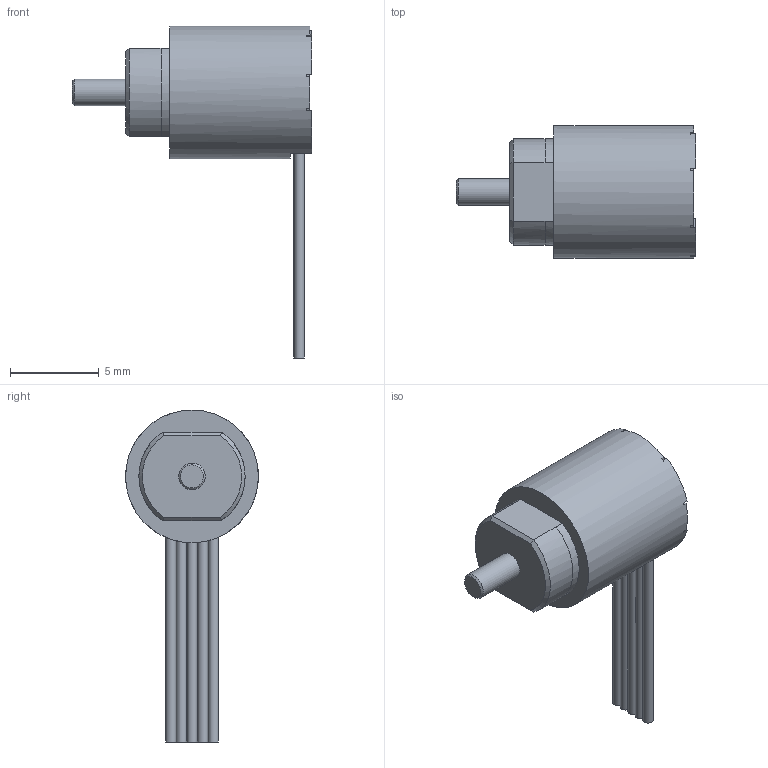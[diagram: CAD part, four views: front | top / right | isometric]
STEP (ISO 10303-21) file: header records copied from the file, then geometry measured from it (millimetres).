
FILE_DESCRIPTION(('STEP AP242'),'1');
FILE_NAME('L0G02 MES-6P.stp','2025-06-20T01:16:08',(' '),(' '),'Spatial InterOp 3D',' ',' ');
FILE_SCHEMA(('AP242_MANAGED_MODEL_BASED_3D_ENGINEERING_MIM_LF {1 0 10303 442 1 1 4}'));
Length unit declared in the file: millimetre
Products named in the file (1): L0G02 MES-6P
Bounding box: 13.5 x 7.5 x 18.75 mm (x, y, z)
Volume: 432.5 mm3; surface area: 447 mm2
Topology: 1 solids, 1 shells, 85 faces, 213 edges, 139 vertices
Faces by surface type: plane 57, cylinder 24, cone 4
Full cylindrical faces by diameter (mm): 0.58 x5, 1.2 x1, 1.5 x1, 7.5 x1
Entity records: 3234 total; most frequent: CARTESIAN_POINT 452, DIRECTION 438, ORIENTED_EDGE 400, EDGE_CURVE 200, AXIS2_PLACEMENT_3D 158, VERTEX_POINT 136, LINE 122, VECTOR 122
